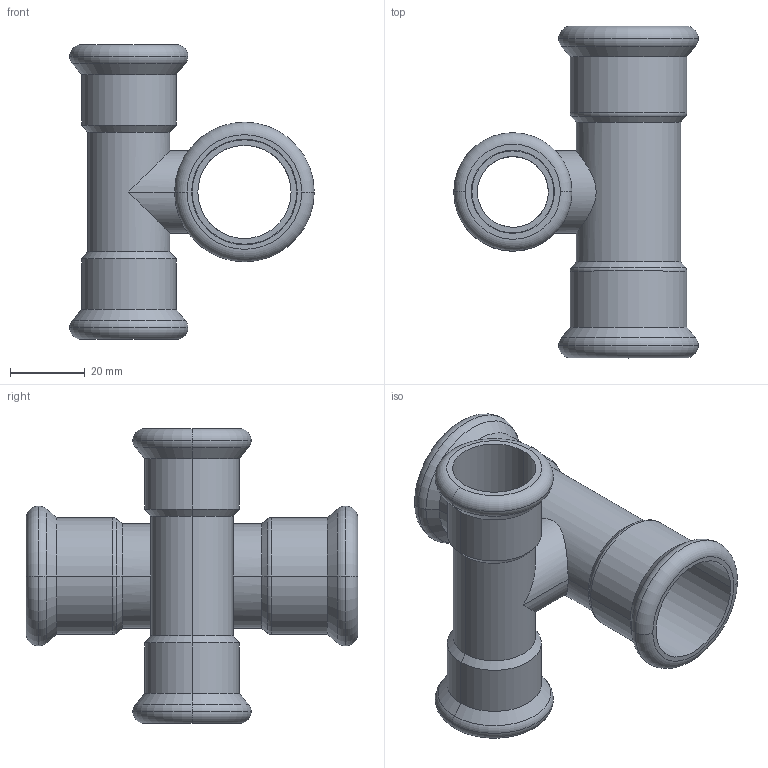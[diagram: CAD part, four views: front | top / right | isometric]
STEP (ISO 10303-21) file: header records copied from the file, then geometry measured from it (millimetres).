
FILE_DESCRIPTION(('CoCreate Modeling STEP Export'),'2;1');
FILE_NAME('C1434 28x22x28x22.stp','2014-11-12T16:30:19',(''),(''),'CoCreate Modeling STEP processor for AP214 (Solid Model)','CoCreate Modeling 17.00A 17-Jun-2010 (C) Parametric Technology GmbH','');
FILE_SCHEMA(('AUTOMOTIVE_DESIGN { 1 0 10303 214 1 1 1 1 }'));
Length unit declared in the file: millimetre
Products named in the file (2): C1434_28x22x28x22
Assembly tree (1 placements, depth 2):
  C1434_28x22x28x22
    C1434_28x22x28x22
Bounding box: 65.58 x 89 x 79 mm (x, y, z)
Volume: 27816.3 mm3; surface area: 30062.4 mm2
Topology: 1 solids, 1 shells, 90 faces, 197 edges, 115 vertices
Faces by surface type: cylinder 40, torus 20, cone 16, plane 14
Entity records: 3122 total; most frequent: CARTESIAN_POINT 1409, ORIENTED_EDGE 394, DIRECTION 302, EDGE_CURVE 197, AXIS2_PLACEMENT_3D 123, VERTEX_POINT 115, EDGE_LOOP 102, FACE_OUTER_BOUND 90
